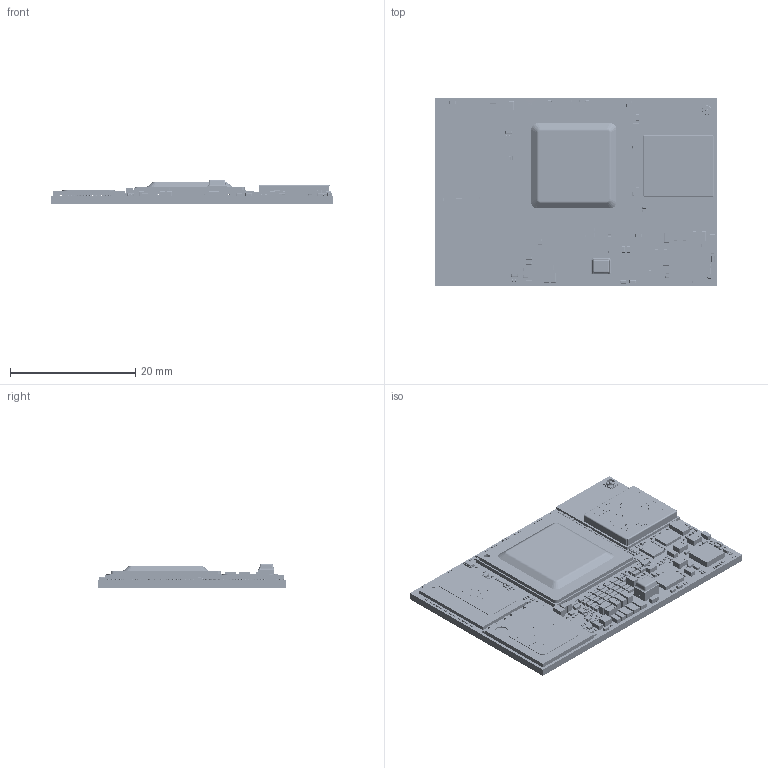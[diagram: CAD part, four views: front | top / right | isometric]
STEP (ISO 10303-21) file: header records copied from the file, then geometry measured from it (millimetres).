
FILE_DESCRIPTION (( 'STEP AP214' ), '1' );
FILE_NAME ('EZOMI-67A-0416-00199-2.STEP', '2026-05-20T06:48:26', ( '' ), ( '' ), 'SwSTEP 2.0', 'SolidWorks 2025', '' );
FILE_SCHEMA (( 'AUTOMOTIVE_DESIGN' ));
Length unit declared in the file: millimetre
Products named in the file (1): EZOMI-67A-0416-00199-2
Bounding box: 45 x 30 x 3.83 mm (x, y, z)
Surface area: 10117.3 mm2 (no closed solid volume)
Topology: 0 solids, 2582 shells, 30244 faces, 74045 edges, 46898 vertices
Faces by surface type: plane 24648, sphere 2314, cylinder 2113, bspline 1161, cone 6, torus 2
Entity records: 1253164 total; most frequent: CARTESIAN_POINT 209248, ORIENTED_EDGE 141602, DIRECTION 132141, EDGE_CURVE 70846, LINE 62539, VECTOR 62539, VERTEX_POINT 46009, AXIS2_PLACEMENT_3D 34801
